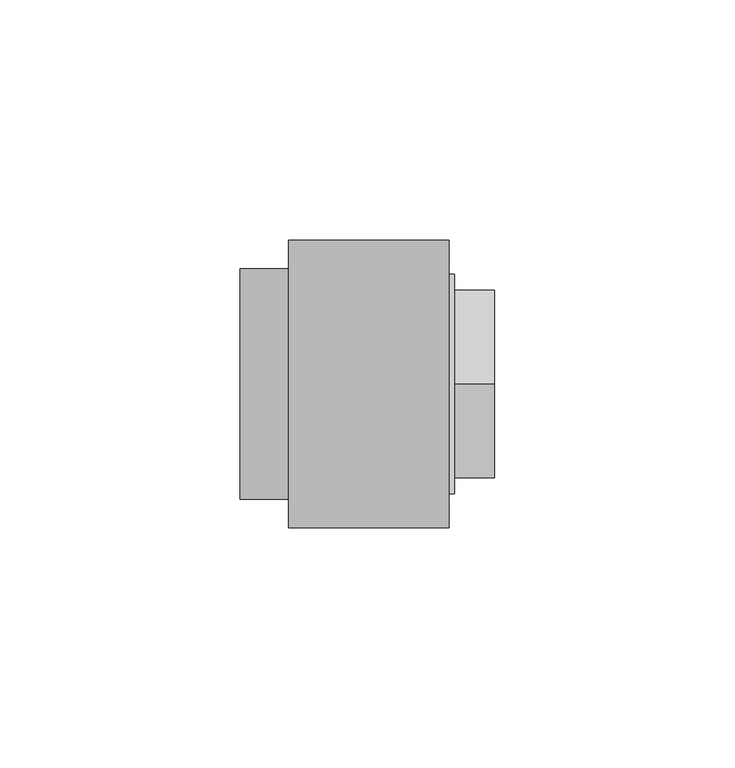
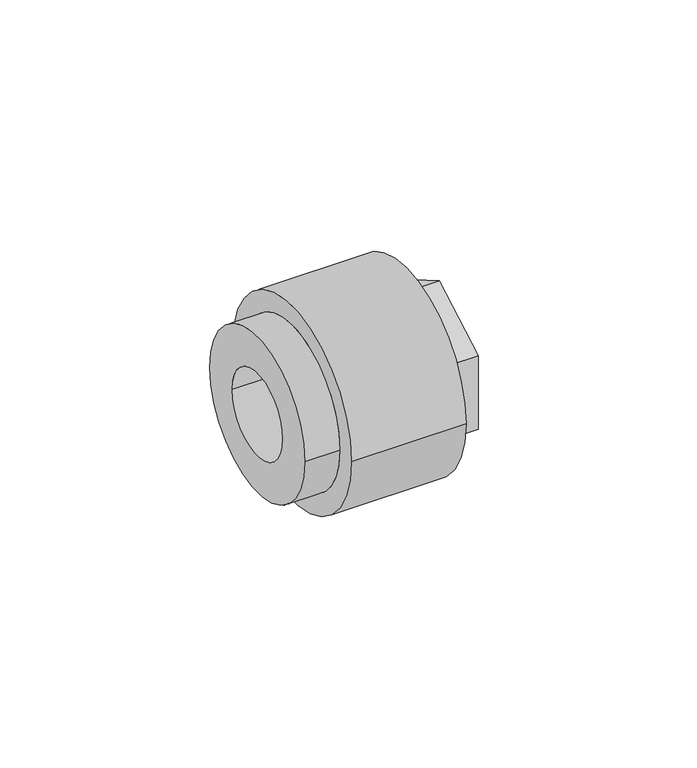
"""IFC4 building model written with IfcOpenShell, lengths in millimetres: pipe fitting geometry, Aquatherm - Fusion Outlet Transition Female : POTABLE BRASS - HEX."""

import ifcopenshell
import ifcopenshell.guid

model = None  # the IFC model being written
_history = None  # IfcOwnerHistory: only IFC2X3 demands one
_inside = {}  # id of a spatial element -> (the spatial element, [elements in it])
_under = {}  # id of a project, library or spatial element -> (it, [spatial elements below it])
_declared = {}  # id of a project -> (the project, [libraries it declares])
_typed = {}  # id of a type object -> (the type object, [elements of that type])
_made_of = {}  # id of a material, layer set ... -> (it, [elements and type objects made of it])


def new_model(schema):
    """Start an empty IFC model of exactly this schema.

    Asked for "IFC4X3", IfcOpenShell would pick the latest addendum, in which some entities
    have other attributes; the version numbers below select the first issue.
    IFC2X3 requires an IfcOwnerHistory on every rooted entity: one is made here for all.
    """
    global model, _history
    if schema == "IFC4X3":
        model = ifcopenshell.file(schema_version=(4, 3, 0, 0))
    else:
        model = ifcopenshell.file(schema=schema)
    _inside.clear()
    _under.clear()
    _declared.clear()
    _typed.clear()
    _made_of.clear()
    _history = None
    if model.schema == "IFC2X3":
        org = make("IfcOrganization", Name="unknown")
        user = make(
            "IfcPersonAndOrganization",
            ThePerson=make("IfcPerson", FamilyName="unknown"),
            TheOrganization=org,
        )
        app = make(
            "IfcApplication",
            ApplicationDeveloper=org,
            Version="unknown",
            ApplicationFullName="unknown",
            ApplicationIdentifier="unknown",
        )
        _history = make(
            "IfcOwnerHistory",
            OwningUser=user,
            OwningApplication=app,
            ChangeAction="ADDED",
            CreationDate=0,
        )
    return model


def make(cls, **values):
    """One entity of the class cls with the attributes given. An attribute that is None is left unset."""
    return model.create_entity(
        cls, **{name: value for name, value in values.items() if value is not None}
    )


def rooted(cls, **values):
    """An entity with a GlobalId (a new one), such as an element, a storey or a relation."""
    return make(cls, GlobalId=ifcopenshell.guid.new(), OwnerHistory=_history, **values)


def si_unit(unit_type, name, prefix=None):
    """IfcSIUnit, for example si_unit("LENGTHUNIT", "METRE", prefix="MILLI")."""
    return make("IfcSIUnit", UnitType=unit_type, Prefix=prefix, Name=name)


def assignment(units):
    """IfcUnitAssignment: the units of a project."""
    return None if units is None else make("IfcUnitAssignment", Units=units)


def point(xyz):
    """IfcCartesianPoint."""
    return None if xyz is None else make("IfcCartesianPoint", Coordinates=xyz)


def direction(xyz):
    """IfcDirection."""
    return None if xyz is None else make("IfcDirection", DirectionRatios=xyz)


def frame(location, z_axis=None, x_axis=None):
    """IfcAxis2Placement3D, a coordinate frame: its origin and axes. An axis left out is left unset."""
    return make(
        "IfcAxis2Placement3D",
        Location=point(location),
        Axis=direction(z_axis),
        RefDirection=direction(x_axis),
    )


def origin():
    """The frame at (0, 0, 0) with its axes left unset."""
    return frame((0.0, 0.0, 0.0))


def place(relative_to, where):
    """IfcLocalPlacement: puts the frame where relative to a parent placement (None: the world)."""
    return make(
        "IfcLocalPlacement", PlacementRelTo=relative_to, RelativePlacement=where
    )


def context(
    kind, dimensions, precision=None, world=None, true_north=None, identifier=None
):
    """IfcGeometricRepresentationContext, for example the 3D "Model" context."""
    return make(
        "IfcGeometricRepresentationContext",
        ContextIdentifier=identifier,
        ContextType=kind,
        CoordinateSpaceDimension=dimensions,
        Precision=precision,
        WorldCoordinateSystem=world,
        TrueNorth=true_north,
    )


def project(units=None, contexts=None):
    """IfcProject with its units and contexts."""
    return rooted(
        "IfcProject",
        Name="project",
        RepresentationContexts=contexts,
        UnitsInContext=assignment(units),
    )


def spatial(cls, under=None, at=None, **own):
    """A site, building, storey or space (cls), placed at a placement, below another one or the project."""
    s = rooted(cls, ObjectPlacement=at, **own)
    if under is not None:
        _under.setdefault(under.id(), (under, []))[1].append(s)
    return s


def polyline(points):
    """IfcPolyline through the points."""
    return make("IfcPolyline", Points=[point(p) for p in points])


def circle_curve(where, radius):
    """IfcCircle in the frame where."""
    return make("IfcCircle", Position=where, Radius=radius)


def shape(context_of_items, identifier, shape_type, items):
    """IfcShapeRepresentation: the items that make up one representation, for example the "Body"."""
    return make(
        "IfcShapeRepresentation",
        ContextOfItems=context_of_items,
        RepresentationIdentifier=identifier,
        RepresentationType=shape_type,
        Items=items,
    )


def source(mapping_origin, context_of_items, identifier, shape_type, items):
    """IfcRepresentationMap: a shape defined once, which mapped items show again and again."""
    return make(
        "IfcRepresentationMap",
        MappingOrigin=mapping_origin,
        MappedRepresentation=shape(context_of_items, identifier, shape_type, items),
    )


def transform(
    local_origin,
    x_axis=None,
    y_axis=None,
    z_axis=None,
    scale=None,
    scale2=None,
    scale3=None,
    uniform=True,
):
    """IfcCartesianTransformationOperator3D, or its non-uniform kind. x_axis, y_axis, z_axis: its Axis1, 2, 3."""
    if uniform:
        return make(
            "IfcCartesianTransformationOperator3D",
            Axis1=direction(x_axis),
            Axis2=direction(y_axis),
            LocalOrigin=point(local_origin),
            Scale=scale,
            Axis3=direction(z_axis),
        )
    return make(
        "IfcCartesianTransformationOperator3DnonUniform",
        Axis1=direction(x_axis),
        Axis2=direction(y_axis),
        LocalOrigin=point(local_origin),
        Scale=scale,
        Axis3=direction(z_axis),
        Scale2=scale2,
        Scale3=scale3,
    )


def mapped(mapping_source, mapping_target):
    """IfcMappedItem: shows the shape of a source again, moved by a transform."""
    return make(
        "IfcMappedItem", MappingSource=mapping_source, MappingTarget=mapping_target
    )


def made_of(thing, what):
    """Note that an element or type object is made of a material, layer set ...; save() writes the relation."""
    if what is not None:
        _made_of.setdefault(what.id(), (what, []))[1].append(thing)
    return thing


def element(
    cls,
    number,
    at=None,
    inside=None,
    cuts=None,
    type_object=None,
    material=None,
    context=None,
    identifier="Body",
    shape_type=None,
    held_by="IfcProductDefinitionShape",
    body=None,
    shapes=None,
    **own,
):
    """One element of the class cls, such as IfcWall. Its Tag is "e" and its number.

    at: its placement. inside: the storey or other place that contains it. cuts: it is an
    opening in that element (IfcRelVoidsElement). A single representation is given by context,
    identifier, shape_type and body (its items); several are given by shapes. held_by: the class
    of the entity that holds the representations. save() writes the other relations.
    """
    e = rooted(cls, Tag="e%d" % number, ObjectPlacement=at, **own)
    if body is not None:
        shapes = [shape(context, identifier, shape_type, body)]
    if shapes is not None:
        e.Representation = make(held_by, Representations=shapes)
    if inside is not None:
        _inside.setdefault(inside.id(), (inside, []))[1].append(e)
    if cuts is not None:
        rooted(
            "IfcRelVoidsElement", RelatingBuildingElement=cuts, RelatedOpeningElement=e
        )
    if type_object is not None:
        _typed.setdefault(type_object.id(), (type_object, []))[1].append(e)
    return made_of(e, material)


def aggregate(whole, parts):
    """IfcRelAggregates: a whole, such as a stair, and the parts it consists of."""
    return rooted("IfcRelAggregates", RelatingObject=whole, RelatedObjects=parts)


def save(model, path):
    """Write the relations noted so far, then the file.

    IfcRelAggregates (storeys below a building ...), IfcRelContainedInSpatialStructure (elements
    in a storey), IfcRelDefinesByType, IfcRelAssociatesMaterial and IfcRelDeclares: one each for
    every whole, place, type object, material and project.
    """
    for whole, parts in _under.values():
        aggregate(whole, parts)
    for where, things in _inside.values():
        rooted(
            "IfcRelContainedInSpatialStructure",
            RelatedElements=things,
            RelatingStructure=where,
        )
    for kind, things in _typed.values():
        rooted("IfcRelDefinesByType", RelatedObjects=things, RelatingType=kind)
    for what, things in _made_of.values():
        rooted("IfcRelAssociatesMaterial", RelatedObjects=things, RelatingMaterial=what)
    for by, libraries in _declared.values():
        rooted("IfcRelDeclares", RelatingContext=by, RelatedDefinitions=libraries)
    model.write(path)


def plane_surface(at):
    """IfcPlane: the flat surface through the origin of the frame at, square to its z axis."""
    return make("IfcPlane", Position=at)


def cylinder_surface(at, radius):
    """IfcCylindricalSurface: all points at the distance radius from the z axis of the frame at."""
    return make("IfcCylindricalSurface", Position=at, Radius=radius)


def revolved_surface(curve, axis_point, axis_direction):
    """IfcSurfaceOfRevolution: the curve turned about the line through axis_point along axis_direction."""
    return make(
        "IfcSurfaceOfRevolution",
        SweptCurve=make("IfcArbitraryOpenProfileDef", ProfileType="CURVE", Curve=curve),
        AxisPosition=make("IfcAxis1Placement", Location=point(axis_point), Axis=direction(axis_direction)),
    )


def advanced_brep(points, edges, surfaces, faces):
    """IfcAdvancedBrep: a solid bounded by faces that lie on surfaces and meet in shared edges.

    An edge is (start, end): straight between two places in points (the first is 0);
    or (start, end, curve); or (start, end, curve, False) where it runs against its curve.
    A face is (place in surfaces, loops), or (place, loops, False) where it looks against
    its surface's normal. A loop lists edges by number (the first is 1), with a minus sign
    where the edge is run from its end to its start. The first loop is the outer one.
    """
    corners = [point(p) for p in points]
    vertices = [make("IfcVertexPoint", VertexGeometry=c) for c in corners]
    made = []
    for start, end, *more in edges:
        made.append(
            make(
                "IfcEdgeCurve",
                EdgeStart=vertices[start],
                EdgeEnd=vertices[end],
                EdgeGeometry=more[0] if more else make("IfcPolyline", Points=[corners[start], corners[end]]),
                SameSense=more[1] if len(more) > 1 else True,
            )
        )
    hull = []
    for where, loops, *sense in faces:
        bounds = []
        for j, loop in enumerate(loops):
            ring = [make("IfcOrientedEdge", EdgeElement=made[abs(k) - 1], Orientation=k > 0) for k in loop]
            bounds.append(
                make(
                    "IfcFaceOuterBound" if j == 0 else "IfcFaceBound",
                    Bound=make("IfcEdgeLoop", EdgeList=ring),
                    Orientation=True,
                )
            )
        hull.append(make("IfcAdvancedFace", Bounds=bounds, FaceSurface=surfaces[where], SameSense=sense[0] if sense else True))
    return make("IfcAdvancedBrep", Outer=make("IfcClosedShell", CfsFaces=hull))


def pipe_fitting_dff72cae(model_context):
    return source(origin(), model_context, "Body", "AdvancedBrep", [
        advanced_brep(
        [(25.4635, 15.875, 0.0), (25.4635, -15.875, 0.0), (40.3463125, -15.875, 0.0), (40.3463125, 15.875, 0.0), (25.4635, 16.66875, 0.0), (25.4635, -16.66875, 0.0), (22.2885, 16.66875, 0.0), (22.2885, -16.66875, 0.0), (22.2885, 12.7, 0.0), (22.2885, -12.7, 0.0), (19.1135, 12.7, 0.0), (19.1135, -12.7, 0.0), (19.1135, 24.003, 0.0), (19.1135, -24.003, 0.0), (33.401, 24.003, 0.0), (33.401, -24.003, 0.0), (42.926, 16.66875, 0.0), (42.926, -16.66875, 0.0), (42.926, -19.558, 0.0), (42.926, -19.558, -11.2918166), (42.926, 0.0, -22.5836331), (42.926, 19.558, -11.2918166), (42.926, 19.558, 0.0), (42.926, 19.558, 11.2918166), (42.926, 0.0, 22.5836331), (42.926, -19.558, 11.2918166), (33.401, 22.86, 0.0), (33.401, -22.86, 0.0), (34.591625, 22.86, 0.0), (34.591625, -22.86, 0.0), (34.591625, 0.0, -22.5836331), (34.591625, -19.558, -11.2918166), (34.591625, -19.558, 11.2918166), (34.591625, 0.0, 22.5836331), (34.591625, 19.558, 11.2918166), (34.591625, 19.558, -11.2918166)],
        [
            (0, 1, circle_curve(frame((25.4635, 0.0, 0.0), z_axis=(-1.0, 0.0, 0.0), x_axis=(0.0, -1.0, 0.0)), 15.875)),
            (1, 2),
            (2, 3, circle_curve(frame((40.3463125, 0.0, 0.0), z_axis=(1.0, 0.0, 0.0), x_axis=(0.0, -1.0, 0.0)), 15.875)),
            (3, 0),
            (1, 0, circle_curve(frame((25.4635, 0.0, 0.0), z_axis=(-1.0, 0.0, 0.0), x_axis=(0.0, -1.0, 0.0)), 15.875)),
            (3, 2, circle_curve(frame((40.3463125, 0.0, 0.0), z_axis=(1.0, 0.0, 0.0), x_axis=(0.0, -1.0, 0.0)), 15.875)),
            (0, 4),
            (4, 5, circle_curve(frame((25.4635, 0.0, 0.0), z_axis=(-1.0, 0.0, 0.0), x_axis=(0.0, -1.0, 0.0)), 16.66875)),
            (5, 1),
            (5, 4, circle_curve(frame((25.4635, 0.0, 0.0), z_axis=(-1.0, 0.0, 0.0), x_axis=(0.0, -1.0, 0.0)), 16.66875)),
            (4, 6),
            (6, 7, circle_curve(frame((22.2885, 0.0, 0.0), z_axis=(-1.0, 0.0, 0.0), x_axis=(0.0, -1.0, 0.0)), 16.66875)),
            (7, 5),
            (7, 6, circle_curve(frame((22.2885, 0.0, 0.0), z_axis=(-1.0, 0.0, 0.0), x_axis=(0.0, -1.0, 0.0)), 16.66875)),
            (6, 8),
            (8, 9, circle_curve(frame((22.2885, 0.0, 0.0), z_axis=(-1.0, 0.0, 0.0), x_axis=(0.0, -1.0, 0.0)), 12.7)),
            (9, 7),
            (9, 8, circle_curve(frame((22.2885, 0.0, 0.0), z_axis=(-1.0, 0.0, 0.0), x_axis=(0.0, -1.0, 0.0)), 12.7)),
            (8, 10),
            (10, 11, circle_curve(frame((19.1135, 0.0, 0.0), z_axis=(-1.0, 0.0, 0.0), x_axis=(0.0, -1.0, 0.0)), 12.7)),
            (11, 9),
            (11, 10, circle_curve(frame((19.1135, 0.0, 0.0), z_axis=(-1.0, 0.0, 0.0), x_axis=(0.0, -1.0, 0.0)), 12.7)),
            (10, 12),
            (12, 13, circle_curve(frame((19.1135, 0.0, 0.0), z_axis=(-1.0, 0.0, 0.0), x_axis=(0.0, -1.0, 0.0)), 24.003)),
            (13, 11),
            (13, 12, circle_curve(frame((19.1135, 0.0, 0.0), z_axis=(-1.0, 0.0, 0.0), x_axis=(0.0, -1.0, 0.0)), 24.003)),
            (12, 14),
            (14, 15, circle_curve(frame((33.401, 0.0, 0.0), z_axis=(-1.0, 0.0, 0.0), x_axis=(0.0, -1.0, 0.0)), 24.003)),
            (15, 13),
            (15, 14, circle_curve(frame((33.401, 0.0, 0.0), z_axis=(-1.0, 0.0, 0.0), x_axis=(0.0, -1.0, 0.0)), 24.003)),
            (16, 17, circle_curve(frame((42.926, 0.0, 0.0), z_axis=(-1.0, 0.0, 0.0), x_axis=(0.0, -1.0, 0.0)), 16.66875)),
            (17, 18),
            (18, 19),
            (19, 20),
            (20, 21),
            (21, 22),
            (22, 16),
            (17, 16, circle_curve(frame((42.926, 0.0, 0.0), z_axis=(-1.0, 0.0, 0.0), x_axis=(0.0, -1.0, 0.0)), 16.66875)),
            (22, 23),
            (23, 24),
            (24, 25),
            (25, 18),
            (2, 17),
            (16, 3),
            (14, 26),
            (26, 27, circle_curve(frame((33.401, 0.0, 0.0), z_axis=(-1.0, 0.0, 0.0), x_axis=(0.0, -1.0, 0.0)), 22.86)),
            (27, 15),
            (27, 26, circle_curve(frame((33.401, 0.0, 0.0), z_axis=(-1.0, 0.0, 0.0), x_axis=(0.0, -1.0, 0.0)), 22.86)),
            (26, 28),
            (28, 29, circle_curve(frame((34.591625, 0.0, 0.0), z_axis=(-1.0, 0.0, 0.0), x_axis=(0.0, -1.0, 0.0)), 22.86)),
            (29, 27),
            (29, 28, circle_curve(frame((34.591625, 0.0, 0.0), z_axis=(-1.0, 0.0, 0.0), x_axis=(0.0, -1.0, 0.0)), 22.86)),
            (30, 31),
            (31, 32),
            (32, 33),
            (33, 34),
            (34, 35),
            (35, 30),
            (35, 21),
            (20, 30),
            (34, 23),
            (33, 24),
            (32, 25),
            (31, 19),
        ],
        [
            revolved_surface(polyline([(40.3463125, -15.875, 0.0), (25.4635, -15.875, 0.0)]), (44.7592251, 0.0, 0.0), (1.0, 0.0, 0.0)),
            plane_surface(frame((25.4635, 0.0, 0.0), z_axis=(-1.0, 0.0, 0.0), x_axis=(0.0, -1.0, 0.0))),
            revolved_surface(polyline([(25.4635, -16.66875, 0.0), (22.2885, -16.66875, 0.0)]), (44.7592251, 0.0, 0.0), (1.0, 0.0, 0.0)),
            plane_surface(frame((22.2885, 0.0, 0.0), z_axis=(1.0, 0.0, 0.0), x_axis=(0.0, -1.0, 0.0))),
            revolved_surface(polyline([(22.2885, -12.7, 0.0), (19.1135, -12.7, 0.0)]), (44.7592251, 0.0, 0.0), (1.0, 0.0, 0.0)),
            plane_surface(frame((19.1135, 0.0, 0.0), z_axis=(-1.0, 0.0, 0.0), x_axis=(0.0, -1.0, 0.0))),
            cylinder_surface(frame((44.7592251, 0.0, 0.0), z_axis=(1.0, 0.0, 0.0), x_axis=(0.0, -1.0, 0.0)), 24.003),
            plane_surface(frame((42.926, 0.0, 0.0), z_axis=(1.0, 0.0, 0.0), x_axis=(0.0, -1.0, 0.0))),
            revolved_surface(polyline([(42.926, -16.66875, 0.0), (40.3463125, -15.875, 0.0)]), (44.7592251, 0.0, 0.0), (1.0, 0.0, 0.0)),
            plane_surface(frame((33.401, 0.0, 0.0), z_axis=(1.0, 0.0, 0.0), x_axis=(0.0, -1.0, 0.0))),
            cylinder_surface(frame((44.7592251, 0.0, 0.0), z_axis=(1.0, 0.0, 0.0), x_axis=(0.0, -1.0, 0.0)), 22.86),
            plane_surface(frame((34.591625, 19.558, -11.2918166), z_axis=(1.0000000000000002, 0.0, 0.0), x_axis=(0.0, 0.8660254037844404, 0.4999999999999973))),
            plane_surface(frame((34.591625, 0.0, -22.5836331), z_axis=(0.0, 0.4999999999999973, -0.8660254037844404), x_axis=(1.0, 0.0, 0.0))),
            plane_surface(frame((34.591625, 19.558, -11.2918166), z_axis=(0.0, 1.0, 0.0), x_axis=(1.0, 0.0, 0.0))),
            plane_surface(frame((34.591625, 19.558, 11.2918166), z_axis=(0.0, 0.5000000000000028, 0.8660254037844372), x_axis=(1.0, 0.0, 0.0))),
            plane_surface(frame((34.591625, 0.0, 22.5836331), z_axis=(0.0, -0.49999999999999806, 0.8660254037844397), x_axis=(1.0, 0.0, 0.0))),
            plane_surface(frame((34.591625, -19.558, 11.2918166), z_axis=(0.0, -1.0, 0.0), x_axis=(1.0, 0.0, 0.0))),
            plane_surface(frame((34.591625, -19.558, -11.2918166), z_axis=(0.0, -0.5000000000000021, -0.8660254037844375), x_axis=(1.0, 0.0, 0.0))),
        ],
        [
            (0, [[1, 2, 3, 4]]),
            (0, [[-2, 5, -4, 6]]),
            (1, [[-1, 7, 8, 9]]),
            (1, [[-5, -9, 10, -7]]),
            (2, [[-8, 11, 12, 13]]),
            (2, [[-10, -13, 14, -11]]),
            (3, [[-12, 15, 16, 17]]),
            (3, [[-14, -17, 18, -15]]),
            (4, [[-16, 19, 20, 21]]),
            (4, [[-18, -21, 22, -19]]),
            (5, [[-20, 23, 24, 25]]),
            (5, [[-22, -25, 26, -23]]),
            (6, [[-24, 27, 28, 29]]),
            (6, [[-26, -29, 30, -27]]),
            (7, [[31, 32, 33, 34, 35, 36, 37]]),
            (7, [[38, -37, 39, 40, 41, 42, -32]]),
            (8, [[-3, 43, -31, 44]]),
            (8, [[-6, -44, -38, -43]]),
            (9, [[-28, 45, 46, 47]]),
            (9, [[-30, -47, 48, -45]]),
            (10, [[-46, 49, 50, 51]]),
            (10, [[-48, -51, 52, -49]]),
            (11, [[-50, -52], [53, 54, 55, 56, 57, 58]]),
            (12, [[-58, 59, -35, 60]]),
            (13, [[-57, 61, -39, -36, -59]]),
            (14, [[-56, 62, -40, -61]]),
            (15, [[-55, 63, -41, -62]]),
            (16, [[-54, 64, -33, -42, -63]]),
            (17, [[-53, -60, -34, -64]]),
        ],
    ),
        advanced_brep(
        [(-10.16, 24.003, 0.0), (-10.16, -24.003, 0.0), (-10.16, 12.7, 0.0), (-10.16, -12.7, 0.0), (19.1135, 24.003, 0.0), (19.1135, -24.003, 0.0), (19.1135, 12.7, 0.0), (19.1135, -12.7, 0.0), (0.0, 24.003, 0.0), (0.0, -24.003, 0.0), (33.401, 29.972, 0.0), (33.401, -29.972, 0.0), (33.401, 24.003, 0.0), (33.401, -24.003, 0.0), (0.0, 29.972, 0.0), (0.0, -29.972, 0.0)],
        [
            (0, 1, circle_curve(frame((-10.16, 0.0, 0.0), z_axis=(-1.0, 0.0, 0.0), x_axis=(0.0, -1.0, 0.0)), 24.003)),
            (1, 0, circle_curve(frame((-10.16, 0.0, 0.0), z_axis=(-1.0, 0.0, 0.0), x_axis=(0.0, -1.0, 0.0)), 24.003)),
            (2, 3, circle_curve(frame((-10.16, 0.0, 0.0), z_axis=(1.0, 0.0, 0.0), x_axis=(0.0, -1.0, 0.0)), 12.7)),
            (3, 2, circle_curve(frame((-10.16, 0.0, 0.0), z_axis=(1.0, 0.0, 0.0), x_axis=(0.0, -1.0, 0.0)), 12.7)),
            (4, 5, circle_curve(frame((19.1135, 0.0, 0.0), z_axis=(1.0, 0.0, 0.0), x_axis=(0.0, -1.0, 0.0)), 24.003)),
            (5, 4, circle_curve(frame((19.1135, 0.0, 0.0), z_axis=(1.0, 0.0, 0.0), x_axis=(0.0, -1.0, 0.0)), 24.003)),
            (6, 7, circle_curve(frame((19.1135, 0.0, 0.0), z_axis=(-1.0, 0.0, 0.0), x_axis=(0.0, -1.0, 0.0)), 12.7)),
            (7, 6, circle_curve(frame((19.1135, 0.0, 0.0), z_axis=(-1.0, 0.0, 0.0), x_axis=(0.0, -1.0, 0.0)), 12.7)),
            (2, 6),
            (7, 3),
            (0, 8),
            (8, 9, circle_curve(frame((0.0, 0.0, 0.0), z_axis=(-1.0, 0.0, 0.0), x_axis=(0.0, -1.0, 0.0)), 24.003)),
            (9, 1),
            (9, 8, circle_curve(frame((0.0, 0.0, 0.0), z_axis=(-1.0, 0.0, 0.0), x_axis=(0.0, -1.0, 0.0)), 24.003)),
            (10, 11, circle_curve(frame((33.401, 0.0, 0.0), z_axis=(1.0, 0.0, 0.0), x_axis=(0.0, -1.0, 0.0)), 29.972)),
            (11, 10, circle_curve(frame((33.401, 0.0, 0.0), z_axis=(1.0, 0.0, 0.0), x_axis=(0.0, -1.0, 0.0)), 29.972)),
            (12, 13, circle_curve(frame((33.401, 0.0, 0.0), z_axis=(-1.0, 0.0, 0.0), x_axis=(0.0, -1.0, 0.0)), 24.003)),
            (13, 12, circle_curve(frame((33.401, 0.0, 0.0), z_axis=(-1.0, 0.0, 0.0), x_axis=(0.0, -1.0, 0.0)), 24.003)),
            (14, 15, circle_curve(frame((0.0, 0.0, 0.0), z_axis=(-1.0, 0.0, 0.0), x_axis=(0.0, -1.0, 0.0)), 29.972)),
            (15, 14, circle_curve(frame((0.0, 0.0, 0.0), z_axis=(-1.0, 0.0, 0.0), x_axis=(0.0, -1.0, 0.0)), 29.972)),
            (13, 5),
            (4, 12),
            (11, 15),
            (14, 10),
        ],
        [
            plane_surface(frame((-10.16, -12.7, 0.0), z_axis=(-1.0, 0.0, 0.0), x_axis=(0.0, 0.0, -1.0))),
            plane_surface(frame((19.1135, -12.7, 0.0), z_axis=(1.0, 0.0, 0.0), x_axis=(0.0, 0.0, 1.0))),
            revolved_surface(polyline([(19.1135, -12.7, 0.0), (-10.16, -12.7, 0.0)]), (19.1135, 0.0, 0.0), (1.0, 0.0, 0.0)),
            cylinder_surface(frame((0.0, 0.0, 0.0), z_axis=(-1.0, 0.0, 0.0), x_axis=(0.0, -1.0, 0.0)), 24.003),
            plane_surface(frame((33.401, -24.003, 0.0), z_axis=(1.0, 0.0, 0.0), x_axis=(0.0, 0.0, 1.0))),
            plane_surface(frame((0.0, -24.003, 0.0), z_axis=(-1.0, 0.0, 0.0), x_axis=(0.0, 0.0, -1.0))),
            revolved_surface(polyline([(33.401, -24.003, 0.0), (19.1135, -24.003, 0.0)]), (33.401, 0.0, 0.0), (1.0, 0.0, 0.0)),
            cylinder_surface(frame((0.0, 0.0, 0.0), z_axis=(-1.0, 0.0, 0.0), x_axis=(0.0, -1.0, 0.0)), 29.972),
        ],
        [
            (0, [[1, 2], [3, 4]]),
            (1, [[5, 6], [7, 8]]),
            (2, [[-3, 9, -8, 10]]),
            (2, [[-4, -10, -7, -9]]),
            (3, [[-1, 11, 12, 13]]),
            (3, [[-2, -13, 14, -11]]),
            (4, [[15, 16], [17, 18]]),
            (5, [[19, 20], [-12, -14]]),
            (6, [[-18, 21, -5, 22]]),
            (6, [[-17, -22, -6, -21]]),
            (7, [[-16, 23, -19, 24]]),
            (7, [[-15, -24, -20, -23]]),
        ],
    ),
    ])


if __name__ == "__main__":
    model = new_model("IFC4")
    model_context = context("Model", 3, world=origin())
    ifc_project = project(units=[si_unit("LENGTHUNIT", "METRE", prefix="MILLI")], contexts=[model_context])
    site = spatial("IfcSite", under=ifc_project)
    building = spatial("IfcBuilding", under=site)
    placement = place(None, origin())
    pipe_fitting_shape = pipe_fitting_dff72cae(model_context)
    element("IfcPipeFitting", 1, ObjectType="Aquatherm - Fusion Outlet Transition Female : POTABLE BRASS - HEX", at=placement, inside=building, context=model_context, shape_type="MappedRepresentation", body=[
        mapped(pipe_fitting_shape, transform((0.0, 0.0, 0.0), x_axis=(1.0, 0.0, 0.0), y_axis=(0.0, 1.0, 0.0), z_axis=(0.0, 0.0, 1.0))),
    ])
    save(model, "model.ifc")
